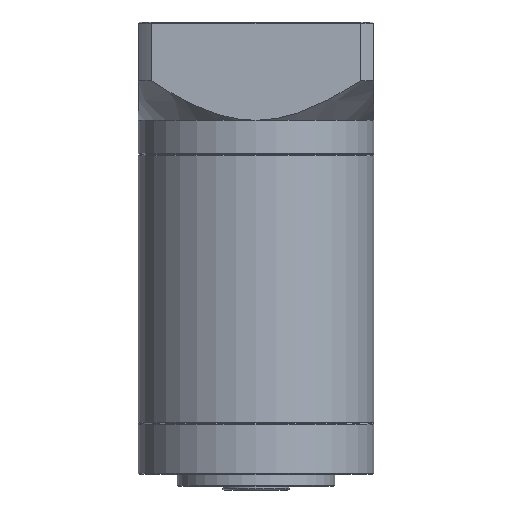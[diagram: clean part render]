
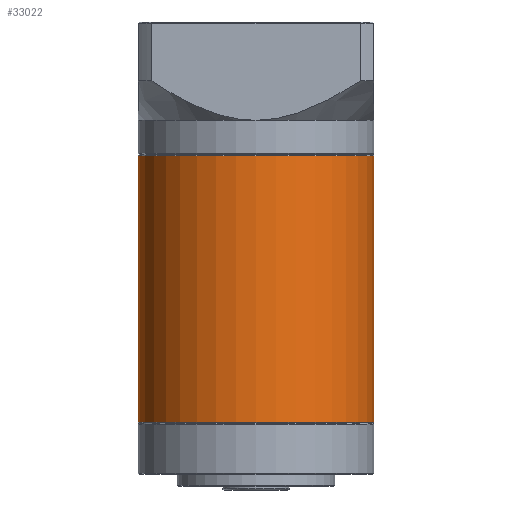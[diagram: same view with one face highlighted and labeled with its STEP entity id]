
A CAD part, front view. The second image highlights one B-rep face of the part: STEP entity #33022.
In plain terms, the highlighted cylindrical face has radius 30 mm (diameter 60 mm), a partial arc.
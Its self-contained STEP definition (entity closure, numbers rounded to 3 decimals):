
#4673 = CARTESIAN_POINT ( 'NONE',  ( -38.862, 23.581, -18.179 ) ) ;
#6860 = CARTESIAN_POINT ( 'NONE',  ( -98.862, 23.581, -18.429 ) ) ;
#7206 = EDGE_CURVE ( 'NONE', #41908, #45187, #72585, .T. ) ;
#8992 = CIRCLE ( 'NONE', #52758, 30. ) ;
#9103 = CARTESIAN_POINT ( 'NONE',  ( -38.862, 23.581, -86.229 ) ) ;
#12387 = AXIS2_PLACEMENT_3D ( 'NONE', #35887, #84961, #42910 ) ;
#19269 = CARTESIAN_POINT ( 'NONE',  ( -98.862, 23.581, -86.229 ) ) ;
#28178 = CARTESIAN_POINT ( 'NONE',  ( -68.862, 23.581, -86.229 ) ) ;
#29171 = EDGE_CURVE ( 'NONE', #41908, #84226, #88096, .T. ) ;
#30421 = VERTEX_POINT ( 'NONE', #19269 ) ;
#30620 = CARTESIAN_POINT ( 'NONE',  ( -98.862, 23.581, -18.179 ) ) ;
#33022 = ADVANCED_FACE ( 'NONE', ( #60490 ), #33025, .T. ) ;
#33025 = CYLINDRICAL_SURFACE ( 'NONE', #86528, 30. ) ;
#34333 = VECTOR ( 'NONE', #53765, 1000. ) ;
#34977 = VECTOR ( 'NONE', #65644, 1000. ) ;
#35080 = ORIENTED_EDGE ( 'NONE', *, *, #63378, .T. ) ;
#35286 = DIRECTION ( 'NONE',  ( 1., 0., 0. ) ) ;
#35887 = CARTESIAN_POINT ( 'NONE',  ( -68.862, 23.581, -18.429 ) ) ;
#37174 = LINE ( 'NONE', #30620, #34977 ) ;
#41256 = ORIENTED_EDGE ( 'NONE', *, *, #7206, .T. ) ;
#41908 = VERTEX_POINT ( 'NONE', #84612 ) ;
#42041 = ORIENTED_EDGE ( 'NONE', *, *, #47685, .T. ) ;
#42910 = DIRECTION ( 'NONE',  ( 1., 0., 0. ) ) ;
#44976 = CARTESIAN_POINT ( 'NONE',  ( -68.862, 23.581, -18.179 ) ) ;
#45187 = VERTEX_POINT ( 'NONE', #6860 ) ;
#45290 = DIRECTION ( 'NONE',  ( 0., 0., -1. ) ) ;
#47685 = EDGE_CURVE ( 'NONE', #45187, #30421, #37174, .T. ) ;
#52367 = ORIENTED_EDGE ( 'NONE', *, *, #29171, .F. ) ;
#52758 = AXIS2_PLACEMENT_3D ( 'NONE', #28178, #77298, #35286 ) ;
#53765 = DIRECTION ( 'NONE',  ( 0., 0., -1. ) ) ;
#60490 = FACE_OUTER_BOUND ( 'NONE', #82135, .T. ) ;
#63378 = EDGE_CURVE ( 'NONE', #30421, #84226, #8992, .T. ) ;
#65644 = DIRECTION ( 'NONE',  ( 0., 0., -1. ) ) ;
#72585 = CIRCLE ( 'NONE', #12387, 30. ) ;
#73517 = DIRECTION ( 'NONE',  ( -1., 0., 0. ) ) ;
#77298 = DIRECTION ( 'NONE',  ( 0., 0., 1. ) ) ;
#82135 = EDGE_LOOP ( 'NONE', ( #52367, #41256, #42041, #35080 ) ) ;
#84226 = VERTEX_POINT ( 'NONE', #9103 ) ;
#84612 = CARTESIAN_POINT ( 'NONE',  ( -38.862, 23.581, -18.429 ) ) ;
#84961 = DIRECTION ( 'NONE',  ( 0., 0., -1. ) ) ;
#86528 = AXIS2_PLACEMENT_3D ( 'NONE', #44976, #45290, #73517 ) ;
#88096 = LINE ( 'NONE', #4673, #34333 ) ;
